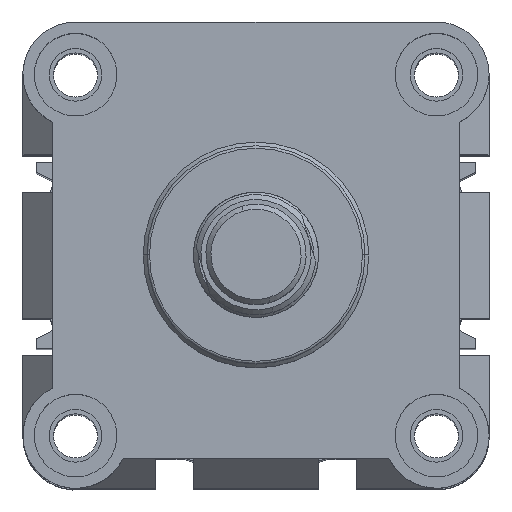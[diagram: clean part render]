
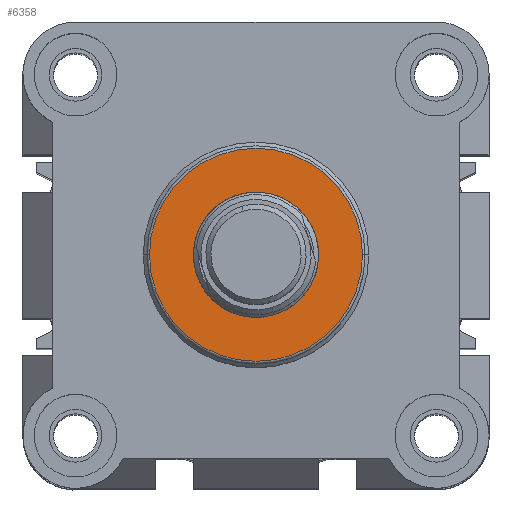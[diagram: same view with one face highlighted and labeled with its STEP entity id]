
A CAD part, top view. The second image highlights one B-rep face of the part: STEP entity #6358.
In plain terms, the highlighted planar face has unit normal (0, 0, 1) as drawn and (0, 0, -1) by its records, which use the part's own axes.
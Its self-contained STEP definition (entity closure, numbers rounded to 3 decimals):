
#722 = DIRECTION ( 'NONE',  ( -1., 0., 0. ) ) ;
#865 = CARTESIAN_POINT ( 'NONE',  ( 46.5, 46.5, -34.7 ) ) ;
#1725 = FACE_OUTER_BOUND ( 'NONE', #15631, .T. ) ;
#1927 = CIRCLE ( 'NONE', #4134, 12.5 ) ;
#3129 = FACE_BOUND ( 'NONE', #9189, .T. ) ;
#3261 = VERTEX_POINT ( 'NONE', #12475 ) ;
#3481 = ORIENTED_EDGE ( 'NONE', *, *, #18212, .F. ) ;
#3605 = CARTESIAN_POINT ( 'NONE',  ( 25.25, 46.5, -34.7 ) ) ;
#3674 = DIRECTION ( 'NONE',  ( 0., 0., -1. ) ) ;
#4134 = AXIS2_PLACEMENT_3D ( 'NONE', #11042, #5170, #5429 ) ;
#5170 = DIRECTION ( 'NONE',  ( 0., 0., -1. ) ) ;
#5429 = DIRECTION ( 'NONE',  ( -1., 0., 0. ) ) ;
#5460 = EDGE_CURVE ( 'NONE', #13299, #11928, #15565, .T. ) ;
#6314 = CARTESIAN_POINT ( 'NONE',  ( 46.5, 46.5, -34.7 ) ) ;
#6358 = ADVANCED_FACE ( 'NONE', ( #3129, #1725 ), #19077, .T. ) ;
#6519 = DIRECTION ( 'NONE',  ( 0., 0., -1. ) ) ;
#6700 = CIRCLE ( 'NONE', #19038, 12.5 ) ;
#9189 = EDGE_LOOP ( 'NONE', ( #15019, #3481 ) ) ;
#9590 = DIRECTION ( 'NONE',  ( -1., 0., 0. ) ) ;
#9682 = AXIS2_PLACEMENT_3D ( 'NONE', #9882, #11496, #16027 ) ;
#9882 = CARTESIAN_POINT ( 'NONE',  ( 46.5, 46.5, -34.7 ) ) ;
#11042 = CARTESIAN_POINT ( 'NONE',  ( 46.5, 46.5, -34.7 ) ) ;
#11436 = DIRECTION ( 'NONE',  ( 0., 0., -1. ) ) ;
#11496 = DIRECTION ( 'NONE',  ( 0., 0., -1. ) ) ;
#11928 = VERTEX_POINT ( 'NONE', #3605 ) ;
#12475 = CARTESIAN_POINT ( 'NONE',  ( 34., 46.5, -34.7 ) ) ;
#13299 = VERTEX_POINT ( 'NONE', #13816 ) ;
#13816 = CARTESIAN_POINT ( 'NONE',  ( 67.75, 46.5, -34.7 ) ) ;
#14045 = VERTEX_POINT ( 'NONE', #17700 ) ;
#14939 = AXIS2_PLACEMENT_3D ( 'NONE', #6314, #6519, #9590 ) ;
#15019 = ORIENTED_EDGE ( 'NONE', *, *, #17649, .F. ) ;
#15430 = CARTESIAN_POINT ( 'NONE',  ( 46.5, 46.5, -34.7 ) ) ;
#15565 = CIRCLE ( 'NONE', #16625, 21.25 ) ;
#15631 = EDGE_LOOP ( 'NONE', ( #19720, #17264 ) ) ;
#15883 = DIRECTION ( 'NONE',  ( -1., 0., 0. ) ) ;
#15959 = EDGE_CURVE ( 'NONE', #11928, #13299, #17052, .T. ) ;
#16027 = DIRECTION ( 'NONE',  ( -1., 0., 0. ) ) ;
#16625 = AXIS2_PLACEMENT_3D ( 'NONE', #15430, #3674, #15883 ) ;
#17052 = CIRCLE ( 'NONE', #14939, 21.25 ) ;
#17264 = ORIENTED_EDGE ( 'NONE', *, *, #5460, .T. ) ;
#17649 = EDGE_CURVE ( 'NONE', #3261, #14045, #6700, .T. ) ;
#17700 = CARTESIAN_POINT ( 'NONE',  ( 59., 46.5, -34.7 ) ) ;
#18212 = EDGE_CURVE ( 'NONE', #14045, #3261, #1927, .T. ) ;
#19038 = AXIS2_PLACEMENT_3D ( 'NONE', #865, #11436, #722 ) ;
#19077 = PLANE ( 'NONE',  #9682 ) ;
#19720 = ORIENTED_EDGE ( 'NONE', *, *, #15959, .T. ) ;
